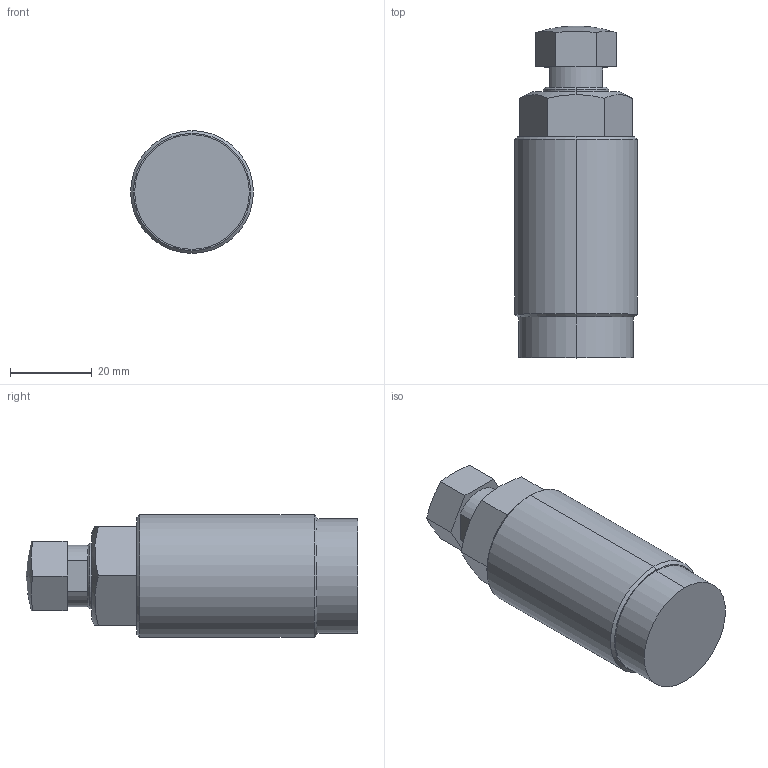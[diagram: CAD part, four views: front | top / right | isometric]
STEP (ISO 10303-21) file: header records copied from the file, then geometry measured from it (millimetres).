
FILE_DESCRIPTION (( 'STEP AP214' ), '1' );
FILE_NAME ('SP-16B2.STEP', '2021-10-19T00:31:50', ( '' ), ( '' ), 'SwSTEP 2.0', 'SolidWorks 2016', '' );
FILE_SCHEMA (( 'AUTOMOTIVE_DESIGN' ));
Length unit declared in the file: millimetre
Products named in the file (1): SP-16B2
Bounding box: 30 x 81 x 30 mm (x, y, z)
Volume: 45130.2 mm3; surface area: 8650.8 mm2
Topology: 1 solids, 2 shells, 45 faces, 100 edges, 61 vertices
Faces by surface type: plane 22, cylinder 11, cone 10, sphere 2
Entity records: 1351 total; most frequent: CARTESIAN_POINT 269, DIRECTION 221, ORIENTED_EDGE 196, EDGE_CURVE 98, AXIS2_PLACEMENT_3D 85, VERTEX_POINT 61, VECTOR 51, LINE 51
